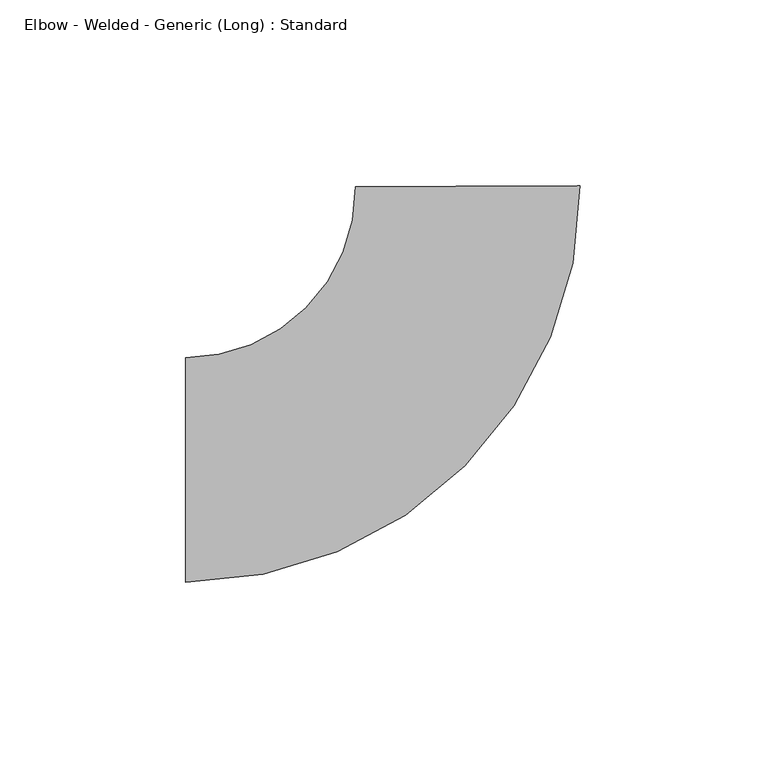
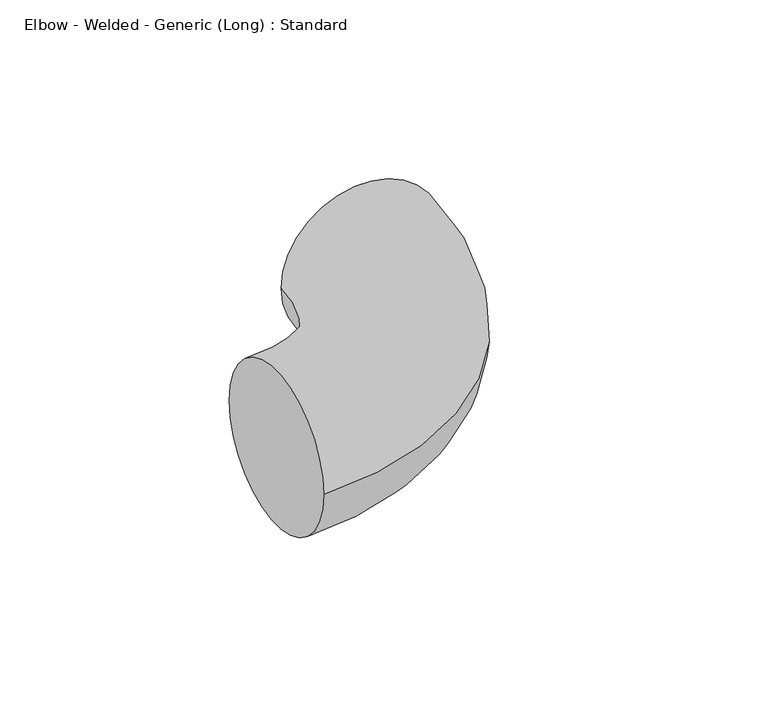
"""IFC4 building model written with IfcOpenShell, lengths in millimetres: pipe fitting geometry, Elbow - Welded - Generic (Long) : Standard."""

from ifc_helpers import new_model, si_unit, point, frame, origin, place, context, project, spatial, circle_curve, ellipse_curve, trimmed, source, transform, mapped, element, save
from ifc_brep_helpers import plane_surface, revolved_surface, advanced_brep


def elbow_welded_generic_long_standard_ad2825a4(model_context):
    return source(origin(), model_context, "Body", "AdvancedBrep", [
        advanced_brep(
        [(-76.2, -30.1625, 0.0), (-76.2, 30.1625, 0.0), (29.835065, 76.3287973, 0.0), (-30.489379, 76.069798, 0.0)],
        [
            (0, 1, circle_curve(frame((-76.2, 0.0, 0.0), z_axis=(-1.0, 0.0, 0.0), x_axis=(0.0, 1.0, 0.0)), 30.1625)),
            (1, 0, circle_curve(frame((-76.2, 0.0, 0.0), z_axis=(-1.0, 0.0, 0.0), x_axis=(0.0, 1.0, 0.0)), 30.1625)),
            (2, 3, circle_curve(frame((-0.327157, 76.1992977, 0.0), z_axis=(-0.0042933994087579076, 0.9999907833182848, 0.0), x_axis=(-0.9999907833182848, -0.0042933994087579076, 0.0)), 30.1625)),
            (3, 2, circle_curve(frame((-0.327157, 76.1992977, 0.0), z_axis=(-0.0042933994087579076, 0.9999907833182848, 0.0), x_axis=(-0.9999907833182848, -0.0042933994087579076, 0.0)), 30.1625)),
            (3, 1, circle_curve(frame((-76.2, 75.8735423, 0.0), z_axis=(0.0, 0.0, -1.0), x_axis=(0.0, -1.0, 0.0)), 45.7110423)),
            (0, 2, circle_curve(frame((-76.2, 75.8735423, 0.0), z_axis=(0.0, 0.0, 1.0), x_axis=(0.0, -1.0, 0.0)), 106.0360423)),
        ],
        [
            plane_surface(frame((-76.2, 0.0, 0.0), z_axis=(-1.0, 0.0, 0.0), x_axis=(0.0, 0.0, 1.0))),
            plane_surface(frame((-0.327157, 76.1992977, 0.0), z_axis=(-0.004293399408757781, 0.9999907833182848, 0.0), x_axis=(0.0, 0.0, 1.0))),
            revolved_surface(trimmed(ellipse_curve(frame((-76.2, 0.0, 0.0), z_axis=(-1.0, 0.0, 0.0), x_axis=(0.0, 1.0, 0.0)), 30.1625, 30.1625), [point((-76.2, -30.1625, 0.0))], [point((-76.2, 30.1625, 0.0))], True, "CARTESIAN"), (-76.2, 75.8735423, 0.0), (0.0, 0.0, 1.0)),
            revolved_surface(trimmed(ellipse_curve(frame((-76.2, 0.0, 0.0), z_axis=(-1.0, 0.0, 0.0), x_axis=(0.0, 1.0, 0.0)), 30.1625, 30.1625), [point((-76.2, 30.1625, 0.0))], [point((-76.2, -30.1625, 0.0))], True, "CARTESIAN"), (-76.2, 75.8735423, 0.0), (0.0, 0.0, 1.0)),
        ],
        [
            (0, [[1, 2]]),
            (1, [[3, 4]]),
            (2, [[5, -1, 6, -4]]),
            (3, [[-6, -2, -5, -3]]),
        ],
    ),
    ])


if __name__ == "__main__":
    model = new_model("IFC4")
    model_context = context("Model", 3, world=origin())
    ifc_project = project(units=[si_unit("LENGTHUNIT", "METRE", prefix="MILLI")], contexts=[model_context])
    site = spatial("IfcSite", under=ifc_project)
    building = spatial("IfcBuilding", under=site)
    placement = place(None, origin())
    elbow_welded_generic_long_standard_shape = elbow_welded_generic_long_standard_ad2825a4(model_context)
    element("IfcPipeFitting", 1, ObjectType="Elbow - Welded - Generic (Long) : Standard", at=placement, inside=building, context=model_context, shape_type="MappedRepresentation", body=[
        mapped(elbow_welded_generic_long_standard_shape, transform((0.0, 0.0, 0.0), x_axis=(1.0, 0.0, 0.0), y_axis=(0.0, 1.0, 0.0), z_axis=(0.0, 0.0, 1.0))),
    ])
    save(model, "model.ifc")
